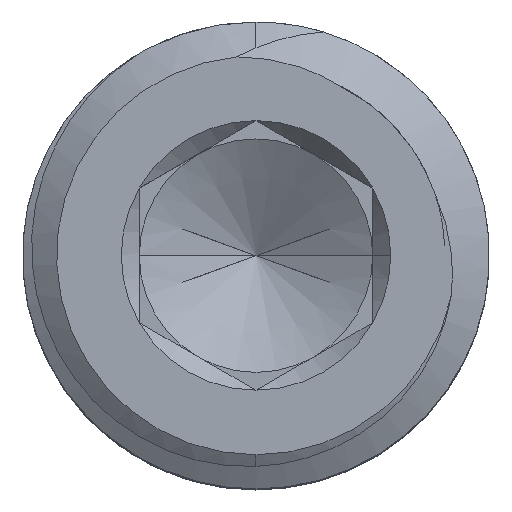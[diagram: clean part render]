
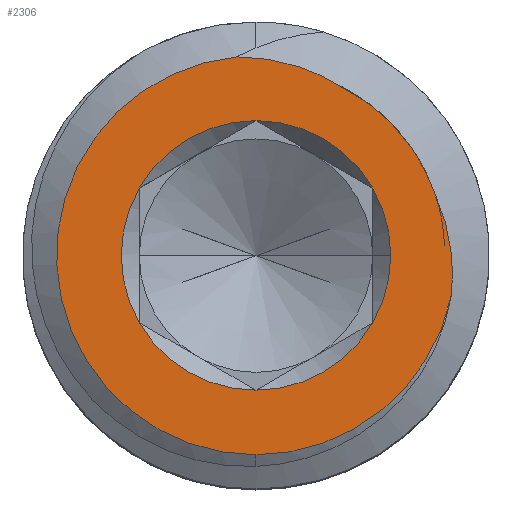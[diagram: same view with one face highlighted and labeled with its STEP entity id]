
A CAD part, top view. The second image highlights one B-rep face of the part: STEP entity #2306.
In plain terms, the highlighted planar face has unit normal (0, 0, 1).
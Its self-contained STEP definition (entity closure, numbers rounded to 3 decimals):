
#74 = DIRECTION ( 'NONE',  ( 0., 0., -1. ) ) ;
#82 = VERTEX_POINT ( 'NONE', #3782 ) ;
#175 = CARTESIAN_POINT ( 'NONE',  ( 0., 0., 10. ) ) ;
#184 = CARTESIAN_POINT ( 'NONE',  ( 0., 0., 10. ) ) ;
#194 = ORIENTED_EDGE ( 'NONE', *, *, #2713, .F. ) ;
#196 = CARTESIAN_POINT ( 'NONE',  ( -0.034, 5.103, 10. ) ) ;
#205 = EDGE_CURVE ( 'NONE', #545, #2440, #3788, .T. ) ;
#263 = CARTESIAN_POINT ( 'NONE',  ( 1.705, 4.609, 10. ) ) ;
#279 = CARTESIAN_POINT ( 'NONE',  ( 4.589, 1.609, 10. ) ) ;
#280 = CARTESIAN_POINT ( 'NONE',  ( 4.027, 2.746, 10. ) ) ;
#292 = VERTEX_POINT ( 'NONE', #2993 ) ;
#309 = EDGE_CURVE ( 'NONE', #2158, #2440, #833, .T. ) ;
#382 = VERTEX_POINT ( 'NONE', #1140 ) ;
#402 = DIRECTION ( 'NONE',  ( 0., 0., 1. ) ) ;
#452 = EDGE_CURVE ( 'NONE', #650, #3152, #1913, .T. ) ;
#486 = CARTESIAN_POINT ( 'NONE',  ( 4.781, 1.195, 10. ) ) ;
#495 = ORIENTED_EDGE ( 'NONE', *, *, #2180, .F. ) ;
#498 = CARTESIAN_POINT ( 'NONE',  ( 0., 0., 10. ) ) ;
#499 = DIRECTION ( 'NONE',  ( 0., 0., 1. ) ) ;
#524 = EDGE_CURVE ( 'NONE', #382, #292, #2802, .T. ) ;
#525 = AXIS2_PLACEMENT_3D ( 'NONE', #498, #1133, #3050 ) ;
#545 = VERTEX_POINT ( 'NONE', #2661 ) ;
#565 = CARTESIAN_POINT ( 'NONE',  ( 3.176, 3.697, 10. ) ) ;
#619 = DIRECTION ( 'NONE',  ( 0., 0., 1. ) ) ;
#641 = CIRCLE ( 'NONE', #2719, 3.464 ) ;
#650 = VERTEX_POINT ( 'NONE', #1874 ) ;
#709 = EDGE_LOOP ( 'NONE', ( #1673, #886, #2407, #194, #1610, #1504, #495 ) ) ;
#724 = DIRECTION ( 'NONE',  ( 0., 1., 0. ) ) ;
#731 = EDGE_CURVE ( 'NONE', #2030, #1420, #2293, .T. ) ;
#794 = CARTESIAN_POINT ( 'NONE',  ( 4.589, 1.609, 10. ) ) ;
#825 = CARTESIAN_POINT ( 'NONE',  ( 1.907, 4.504, 10. ) ) ;
#827 = CARTESIAN_POINT ( 'NONE',  ( 3., -1.732, 10. ) ) ;
#833 = B_SPLINE_CURVE_WITH_KNOTS ( 'NONE', 3,
 ( #794, #486, #2972, #2081, #2369, #3940, #3612, #2386 ),
 .UNSPECIFIED., .F., .F.,
 ( 4, 2, 2, 4 ),
 ( 0., 0.001, 0.002, 0.003 ),
 .UNSPECIFIED. ) ;
#845 = EDGE_CURVE ( 'NONE', #3152, #2158, #3179, .T. ) ;
#867 = CARTESIAN_POINT ( 'NONE',  ( 2.102, 4.386, 10. ) ) ;
#886 = ORIENTED_EDGE ( 'NONE', *, *, #1330, .F. ) ;
#902 = ORIENTED_EDGE ( 'NONE', *, *, #452, .F. ) ;
#1000 = ORIENTED_EDGE ( 'NONE', *, *, #845, .F. ) ;
#1133 = DIRECTION ( 'NONE',  ( 0., 0., 1. ) ) ;
#1140 = CARTESIAN_POINT ( 'NONE',  ( 3.464, 0., 10. ) ) ;
#1162 = ORIENTED_EDGE ( 'NONE', *, *, #309, .F. ) ;
#1195 = CARTESIAN_POINT ( 'NONE',  ( 2.392, 4.246, 10. ) ) ;
#1215 = CARTESIAN_POINT ( 'NONE',  ( 4.483, 1.913, 10. ) ) ;
#1330 = EDGE_CURVE ( 'NONE', #292, #82, #2032, .T. ) ;
#1420 = VERTEX_POINT ( 'NONE', #827 ) ;
#1503 = CARTESIAN_POINT ( 'NONE',  ( 2.102, 4.386, 10. ) ) ;
#1504 = ORIENTED_EDGE ( 'NONE', *, *, #3676, .F. ) ;
#1583 = DIRECTION ( 'NONE',  ( 0., 0., 1. ) ) ;
#1610 = ORIENTED_EDGE ( 'NONE', *, *, #731, .F. ) ;
#1650 = DIRECTION ( 'NONE',  ( 0., -1., 0. ) ) ;
#1673 = ORIENTED_EDGE ( 'NONE', *, *, #2691, .F. ) ;
#1687 = DIRECTION ( 'NONE',  ( 1., 0., 0. ) ) ;
#1756 = EDGE_CURVE ( 'NONE', #650, #545, #3945, .T. ) ;
#1802 = AXIS2_PLACEMENT_3D ( 'NONE', #2861, #1583, #2540 ) ;
#1869 = CARTESIAN_POINT ( 'NONE',  ( 0., 0., 10. ) ) ;
#1874 = CARTESIAN_POINT ( 'NONE',  ( -0.489, 5.102, 10. ) ) ;
#1912 = FACE_OUTER_BOUND ( 'NONE', #2444, .T. ) ;
#1913 = B_SPLINE_CURVE_WITH_KNOTS ( 'NONE', 3,
 ( #3316, #196, #2680, #3690, #3625, #263, #825, #1503 ),
 .UNSPECIFIED., .F., .F.,
 ( 4, 2, 2, 4 ),
 ( 0.006, 0.007, 0.008, 0.008 ),
 .UNSPECIFIED. ) ;
#1993 = DIRECTION ( 'NONE',  ( 0., 0., 1. ) ) ;
#2030 = VERTEX_POINT ( 'NONE', #2482 ) ;
#2032 = CIRCLE ( 'NONE', #3131, 3.464 ) ;
#2081 = CARTESIAN_POINT ( 'NONE',  ( 5.021, 0.09, 10. ) ) ;
#2114 = CARTESIAN_POINT ( 'NONE',  ( 2.668, 4.078, 10. ) ) ;
#2126 = DIRECTION ( 'NONE',  ( 1., 0., 0. ) ) ;
#2158 = VERTEX_POINT ( 'NONE', #279 ) ;
#2166 = VERTEX_POINT ( 'NONE', #4014 ) ;
#2180 = EDGE_CURVE ( 'NONE', #3047, #2166, #2781, .T. ) ;
#2185 = AXIS2_PLACEMENT_3D ( 'NONE', #2261, #402, #1650 ) ;
#2194 = CARTESIAN_POINT ( 'NONE',  ( 0., 0., 10. ) ) ;
#2216 = CARTESIAN_POINT ( 'NONE',  ( 4.589, 1.609, 10. ) ) ;
#2261 = CARTESIAN_POINT ( 'NONE',  ( 0., 0., 10. ) ) ;
#2293 = CIRCLE ( 'NONE', #525, 3.464 ) ;
#2306 = ADVANCED_FACE ( 'NONE', ( #3436, #1912 ), #2560, .F. ) ;
#2354 = AXIS2_PLACEMENT_3D ( 'NONE', #184, #3281, #3324 ) ;
#2369 = CARTESIAN_POINT ( 'NONE',  ( 5.042, -0.138, 10. ) ) ;
#2386 = CARTESIAN_POINT ( 'NONE',  ( 5.019, -1.037, 10. ) ) ;
#2407 = ORIENTED_EDGE ( 'NONE', *, *, #524, .F. ) ;
#2424 = ORIENTED_EDGE ( 'NONE', *, *, #205, .T. ) ;
#2440 = VERTEX_POINT ( 'NONE', #3412 ) ;
#2442 = CARTESIAN_POINT ( 'NONE',  ( 3.41, 3.482, 10. ) ) ;
#2444 = EDGE_LOOP ( 'NONE', ( #902, #3815, #2424, #1162, #1000 ) ) ;
#2469 = AXIS2_PLACEMENT_3D ( 'NONE', #3039, #619, #2126 ) ;
#2482 = CARTESIAN_POINT ( 'NONE',  ( 0., -3.464, 10. ) ) ;
#2540 = DIRECTION ( 'NONE',  ( 1., 0., 0. ) ) ;
#2560 = PLANE ( 'NONE',  #3242 ) ;
#2635 = CARTESIAN_POINT ( 'NONE',  ( 0., 0., 10. ) ) ;
#2661 = CARTESIAN_POINT ( 'NONE',  ( 0., -5.125, 10. ) ) ;
#2680 = CARTESIAN_POINT ( 'NONE',  ( 0.412, 5.046, 10. ) ) ;
#2691 = EDGE_CURVE ( 'NONE', #82, #3047, #641, .T. ) ;
#2700 = DIRECTION ( 'NONE',  ( 1., 0., 0. ) ) ;
#2713 = EDGE_CURVE ( 'NONE', #1420, #382, #3440, .T. ) ;
#2719 = AXIS2_PLACEMENT_3D ( 'NONE', #2635, #3890, #3813 ) ;
#2735 = AXIS2_PLACEMENT_3D ( 'NONE', #175, #499, #2700 ) ;
#2781 = CIRCLE ( 'NONE', #1802, 3.464 ) ;
#2802 = CIRCLE ( 'NONE', #2735, 3.464 ) ;
#2850 = CIRCLE ( 'NONE', #2469, 3.464 ) ;
#2861 = CARTESIAN_POINT ( 'NONE',  ( 0., 0., 10. ) ) ;
#2961 = CARTESIAN_POINT ( 'NONE',  ( -3., 1.732, 10. ) ) ;
#2972 = CARTESIAN_POINT ( 'NONE',  ( 4.912, 0.763, 10. ) ) ;
#2993 = CARTESIAN_POINT ( 'NONE',  ( 3., 1.732, 10. ) ) ;
#3039 = CARTESIAN_POINT ( 'NONE',  ( 0., 0., 10. ) ) ;
#3047 = VERTEX_POINT ( 'NONE', #2961 ) ;
#3050 = DIRECTION ( 'NONE',  ( 1., 0., 0. ) ) ;
#3105 = DIRECTION ( 'NONE',  ( 0., 0., 1. ) ) ;
#3109 = CARTESIAN_POINT ( 'NONE',  ( 4.349, 2.201, 10. ) ) ;
#3131 = AXIS2_PLACEMENT_3D ( 'NONE', #1869, #3105, #3682 ) ;
#3145 = CARTESIAN_POINT ( 'NONE',  ( 2.102, 4.386, 10. ) ) ;
#3152 = VERTEX_POINT ( 'NONE', #3145 ) ;
#3179 = B_SPLINE_CURVE_WITH_KNOTS ( 'NONE', 3,
 ( #867, #1195, #2114, #565, #2442, #3688, #280, #3109, #1215, #2216 ),
 .UNSPECIFIED., .F., .F.,
 ( 4, 2, 2, 2, 4 ),
 ( 0., 0.001, 0.002, 0.003, 0.004 ),
 .UNSPECIFIED. ) ;
#3194 = CARTESIAN_POINT ( 'NONE',  ( 0., 0., 10. ) ) ;
#3242 = AXIS2_PLACEMENT_3D ( 'NONE', #2194, #74, #724 ) ;
#3281 = DIRECTION ( 'NONE',  ( 0., 0., 1. ) ) ;
#3316 = CARTESIAN_POINT ( 'NONE',  ( -0.489, 5.102, 10. ) ) ;
#3324 = DIRECTION ( 'NONE',  ( 0., -1., 0. ) ) ;
#3412 = CARTESIAN_POINT ( 'NONE',  ( 5.019, -1.037, 10. ) ) ;
#3436 = FACE_BOUND ( 'NONE', #709, .T. ) ;
#3440 = CIRCLE ( 'NONE', #4030, 3.464 ) ;
#3612 = CARTESIAN_POINT ( 'NONE',  ( 5.044, -0.813, 10. ) ) ;
#3625 = CARTESIAN_POINT ( 'NONE',  ( 1.287, 4.789, 10. ) ) ;
#3676 = EDGE_CURVE ( 'NONE', #2166, #2030, #2850, .T. ) ;
#3682 = DIRECTION ( 'NONE',  ( 1., 0., 0. ) ) ;
#3688 = CARTESIAN_POINT ( 'NONE',  ( 3.837, 3.005, 10. ) ) ;
#3690 = CARTESIAN_POINT ( 'NONE',  ( 1.071, 4.865, 10. ) ) ;
#3782 = CARTESIAN_POINT ( 'NONE',  ( 0., 3.464, 10. ) ) ;
#3788 = CIRCLE ( 'NONE', #2354, 5.125 ) ;
#3813 = DIRECTION ( 'NONE',  ( 1., 0., 0. ) ) ;
#3815 = ORIENTED_EDGE ( 'NONE', *, *, #1756, .T. ) ;
#3890 = DIRECTION ( 'NONE',  ( 0., 0., 1. ) ) ;
#3940 = CARTESIAN_POINT ( 'NONE',  ( 5.053, -0.588, 10. ) ) ;
#3945 = CIRCLE ( 'NONE', #2185, 5.125 ) ;
#4014 = CARTESIAN_POINT ( 'NONE',  ( -3., -1.732, 10. ) ) ;
#4030 = AXIS2_PLACEMENT_3D ( 'NONE', #3194, #1993, #1687 ) ;
